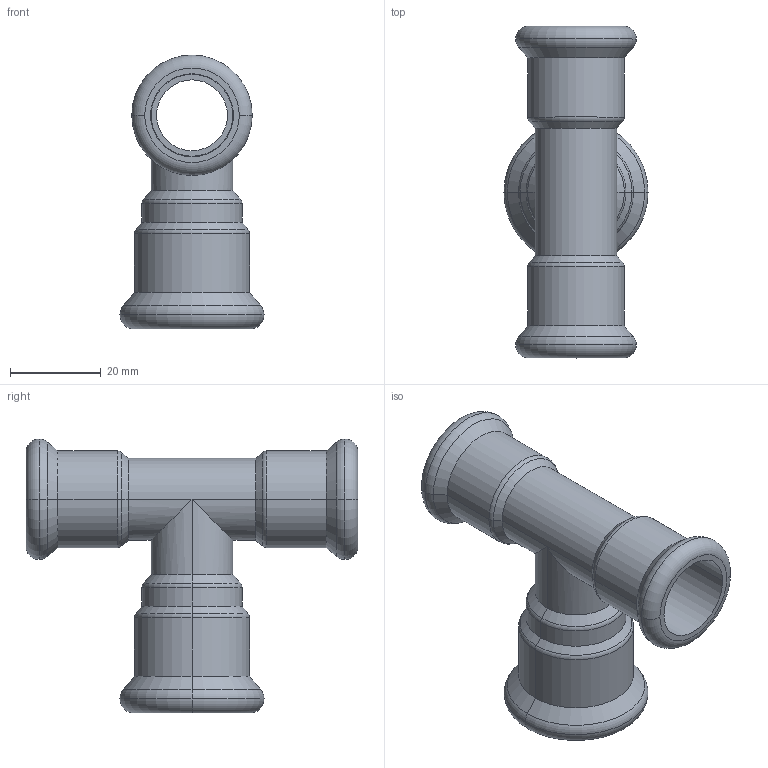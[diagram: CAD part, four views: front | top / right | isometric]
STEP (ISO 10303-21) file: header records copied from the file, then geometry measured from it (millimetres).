
FILE_DESCRIPTION(('CoCreate Modeling STEP Export'),'2;1');
FILE_NAME('C1415 18x22x18.stp','2014-11-11T17:04:27',(''),(''),'CoCreate Modeling STEP processor for AP214 (Solid Model)','CoCreate Modeling 17.00A 17-Jun-2010 (C) Parametric Technology GmbH','');
FILE_SCHEMA(('AUTOMOTIVE_DESIGN { 1 0 10303 214 1 1 1 1 }'));
Length unit declared in the file: millimetre
Products named in the file (2): C1415_18x22x18
Assembly tree (1 placements, depth 2):
  C1415_18x22x18
    C1415_18x22x18
Bounding box: 31.7 x 73 x 60.25 mm (x, y, z)
Volume: 13714.8 mm3; surface area: 15522.9 mm2
Topology: 1 solids, 1 shells, 77 faces, 157 edges, 89 vertices
Faces by surface type: cylinder 32, torus 20, cone 16, plane 9
Entity records: 2230 total; most frequent: CARTESIAN_POINT 820, ORIENTED_EDGE 314, DIRECTION 254, EDGE_CURVE 157, AXIS2_PLACEMENT_3D 104, VERTEX_POINT 89, EDGE_LOOP 86, FACE_OUTER_BOUND 77
